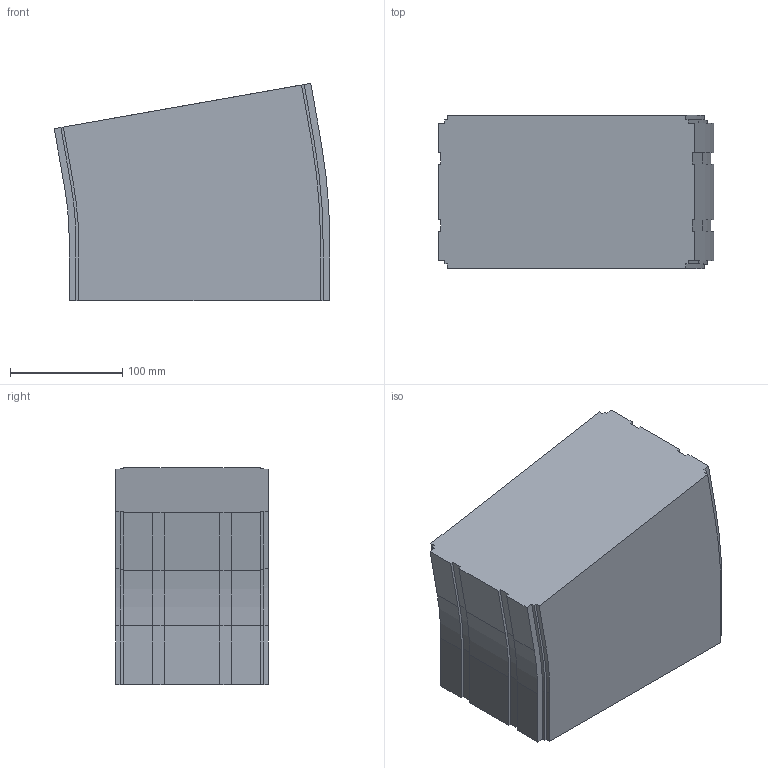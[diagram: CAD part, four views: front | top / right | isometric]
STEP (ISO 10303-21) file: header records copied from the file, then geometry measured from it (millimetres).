
FILE_DESCRIPTION (( 'STEP AP214' ), '1' );
FILE_NAME ('FS-MTC2-150-INOX horizontaalbocht.230 10°.STEP', '2017-02-08T12:40:26', ( '' ), ( '' ), 'SwSTEP 2.0', 'SolidWorks 2016', '' );
FILE_SCHEMA (( 'AUTOMOTIVE_DESIGN' ));
Length unit declared in the file: millimetre
Products named in the file (1): FS-MTC2-150-INOX horizontaalbocht.230 10°
Bounding box: 245.93 x 136.5 x 193.85 mm (x, y, z)
Volume: 5493757.3 mm3; surface area: 195361.3 mm2
Topology: 1 solids, 1 shells, 74 faces, 216 edges, 144 vertices
Faces by surface type: plane 56, cylinder 18
Entity records: 2470 total; most frequent: CARTESIAN_POINT 435, ORIENTED_EDGE 432, DIRECTION 402, EDGE_CURVE 216, VECTOR 180, LINE 180, VERTEX_POINT 144, AXIS2_PLACEMENT_3D 111
